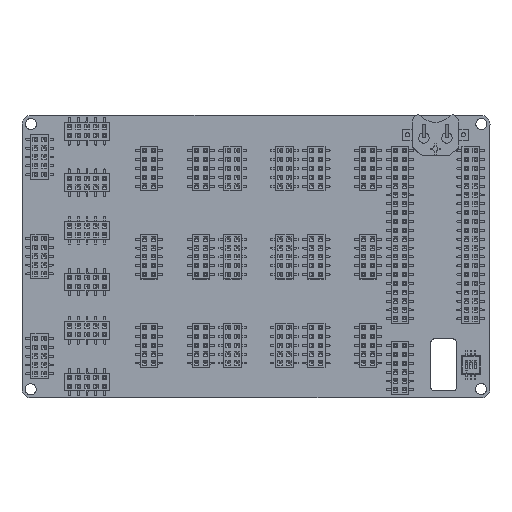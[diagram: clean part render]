
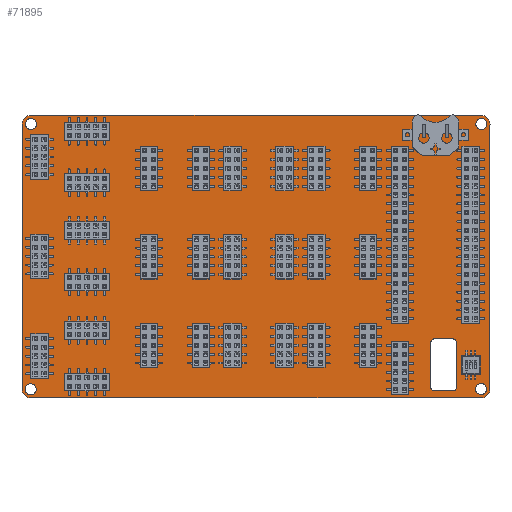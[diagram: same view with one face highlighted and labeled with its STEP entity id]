
A CAD part, top view. The second image highlights one B-rep face of the part: STEP entity #71895.
In plain terms, the highlighted planar face has unit normal (0, 0, 1).
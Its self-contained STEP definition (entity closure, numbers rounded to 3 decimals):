
#71610 = VERTEX_POINT('',#71611);
#71611 = CARTESIAN_POINT('',(222.166,-49.745,1.6));
#71617 = EDGE_CURVE('',#71610,#71618,#71620,.T.);
#71618 = VERTEX_POINT('',#71619);
#71619 = CARTESIAN_POINT('',(224.666,-52.245,1.6));
#71620 = CIRCLE('',#71621,2.5);
#71621 = AXIS2_PLACEMENT_3D('',#71622,#71623,#71624);
#71622 = CARTESIAN_POINT('',(222.167,-52.245,1.6));
#71623 = DIRECTION('',(0.,0.,-1.));
#71624 = DIRECTION('',(0.,1.,0.));
#71652 = VERTEX_POINT('',#71653);
#71653 = CARTESIAN_POINT('',(92.797,-49.766,1.6));
#71659 = EDGE_CURVE('',#71652,#71610,#71660,.T.);
#71660 = LINE('',#71661,#71662);
#71661 = CARTESIAN_POINT('',(92.797,-49.766,1.6));
#71662 = VECTOR('',#71663,1.);
#71663 = DIRECTION('',(1.,0.,0.));
#71681 = EDGE_CURVE('',#71618,#71682,#71684,.T.);
#71682 = VERTEX_POINT('',#71683);
#71683 = CARTESIAN_POINT('',(224.63,-128.375,1.6));
#71684 = LINE('',#71685,#71686);
#71685 = CARTESIAN_POINT('',(224.666,-52.245,1.6));
#71686 = VECTOR('',#71687,1.);
#71687 = DIRECTION('',(0.,-1.,0.));
#71895 = ADVANCED_FACE('',(#71896,#71942,#71953,#71964,#72034,#72045,
    #72056,#72067),#72078,.T.);
#71896 = FACE_BOUND('',#71897,.T.);
#71897 = EDGE_LOOP('',(#71898,#71899,#71900,#71909,#71917,#71926,#71934,
    #71941));
#71898 = ORIENTED_EDGE('',*,*,#71617,.F.);
#71899 = ORIENTED_EDGE('',*,*,#71659,.F.);
#71900 = ORIENTED_EDGE('',*,*,#71901,.F.);
#71901 = EDGE_CURVE('',#71902,#71652,#71904,.T.);
#71902 = VERTEX_POINT('',#71903);
#71903 = CARTESIAN_POINT('',(90.297,-52.266,1.6));
#71904 = CIRCLE('',#71905,2.5);
#71905 = AXIS2_PLACEMENT_3D('',#71906,#71907,#71908);
#71906 = CARTESIAN_POINT('',(92.797,-52.265,1.6));
#71907 = DIRECTION('',(0.,0.,-1.));
#71908 = DIRECTION('',(-1.,0.,-0.));
#71909 = ORIENTED_EDGE('',*,*,#71910,.F.);
#71910 = EDGE_CURVE('',#71911,#71902,#71913,.T.);
#71911 = VERTEX_POINT('',#71912);
#71912 = CARTESIAN_POINT('',(90.261,-128.396,1.6));
#71913 = LINE('',#71914,#71915);
#71914 = CARTESIAN_POINT('',(90.261,-128.396,1.6));
#71915 = VECTOR('',#71916,1.);
#71916 = DIRECTION('',(0.,1.,0.));
#71917 = ORIENTED_EDGE('',*,*,#71918,.F.);
#71918 = EDGE_CURVE('',#71919,#71911,#71921,.T.);
#71919 = VERTEX_POINT('',#71920);
#71920 = CARTESIAN_POINT('',(92.761,-130.896,1.6));
#71921 = CIRCLE('',#71922,2.5);
#71922 = AXIS2_PLACEMENT_3D('',#71923,#71924,#71925);
#71923 = CARTESIAN_POINT('',(92.761,-128.396,1.6));
#71924 = DIRECTION('',(0.,0.,-1.));
#71925 = DIRECTION('',(0.,-1.,0.));
#71926 = ORIENTED_EDGE('',*,*,#71927,.F.);
#71927 = EDGE_CURVE('',#71928,#71919,#71930,.T.);
#71928 = VERTEX_POINT('',#71929);
#71929 = CARTESIAN_POINT('',(222.13,-130.875,1.6));
#71930 = LINE('',#71931,#71932);
#71931 = CARTESIAN_POINT('',(222.13,-130.875,1.6));
#71932 = VECTOR('',#71933,1.);
#71933 = DIRECTION('',(-1.,0.,0.));
#71934 = ORIENTED_EDGE('',*,*,#71935,.F.);
#71935 = EDGE_CURVE('',#71682,#71928,#71936,.T.);
#71936 = CIRCLE('',#71937,2.5);
#71937 = AXIS2_PLACEMENT_3D('',#71938,#71939,#71940);
#71938 = CARTESIAN_POINT('',(222.13,-128.375,1.6));
#71939 = DIRECTION('',(0.,0.,-1.));
#71940 = DIRECTION('',(1.,0.,0.));
#71941 = ORIENTED_EDGE('',*,*,#71681,.F.);
#71942 = FACE_BOUND('',#71943,.T.);
#71943 = EDGE_LOOP('',(#71944));
#71944 = ORIENTED_EDGE('',*,*,#71945,.T.);
#71945 = EDGE_CURVE('',#71946,#71946,#71948,.T.);
#71946 = VERTEX_POINT('',#71947);
#71947 = CARTESIAN_POINT('',(92.761,-129.996,1.6));
#71948 = CIRCLE('',#71949,1.6);
#71949 = AXIS2_PLACEMENT_3D('',#71950,#71951,#71952);
#71950 = CARTESIAN_POINT('',(92.761,-128.396,1.6));
#71951 = DIRECTION('',(-0.,0.,-1.));
#71952 = DIRECTION('',(-0.,-1.,0.));
#71953 = FACE_BOUND('',#71954,.T.);
#71954 = EDGE_LOOP('',(#71955));
#71955 = ORIENTED_EDGE('',*,*,#71956,.T.);
#71956 = EDGE_CURVE('',#71957,#71957,#71959,.T.);
#71957 = VERTEX_POINT('',#71958);
#71958 = CARTESIAN_POINT('',(222.13,-129.975,1.6));
#71959 = CIRCLE('',#71960,1.6);
#71960 = AXIS2_PLACEMENT_3D('',#71961,#71962,#71963);
#71961 = CARTESIAN_POINT('',(222.13,-128.375,1.6));
#71962 = DIRECTION('',(-0.,0.,-1.));
#71963 = DIRECTION('',(-0.,-1.,0.));
#71964 = FACE_BOUND('',#71965,.T.);
#71965 = EDGE_LOOP('',(#71966,#71977,#71985,#71994,#72002,#72011,#72019,
    #72028));
#71966 = ORIENTED_EDGE('',*,*,#71967,.F.);
#71967 = EDGE_CURVE('',#71968,#71970,#71972,.T.);
#71968 = VERTEX_POINT('',#71969);
#71969 = CARTESIAN_POINT('',(208.705,-113.95,1.6));
#71970 = VERTEX_POINT('',#71971);
#71971 = CARTESIAN_POINT('',(207.705,-114.95,1.6));
#71972 = CIRCLE('',#71973,1.);
#71973 = AXIS2_PLACEMENT_3D('',#71974,#71975,#71976);
#71974 = CARTESIAN_POINT('',(208.705,-114.95,1.6));
#71975 = DIRECTION('',(0.,0.,1.));
#71976 = DIRECTION('',(0.,1.,-0.));
#71977 = ORIENTED_EDGE('',*,*,#71978,.F.);
#71978 = EDGE_CURVE('',#71979,#71968,#71981,.T.);
#71979 = VERTEX_POINT('',#71980);
#71980 = CARTESIAN_POINT('',(214.01,-113.95,1.6));
#71981 = LINE('',#71982,#71983);
#71982 = CARTESIAN_POINT('',(214.01,-113.95,1.6));
#71983 = VECTOR('',#71984,1.);
#71984 = DIRECTION('',(-1.,0.,0.));
#71985 = ORIENTED_EDGE('',*,*,#71986,.F.);
#71986 = EDGE_CURVE('',#71987,#71979,#71989,.T.);
#71987 = VERTEX_POINT('',#71988);
#71988 = CARTESIAN_POINT('',(215.01,-114.95,1.6));
#71989 = CIRCLE('',#71990,1.);
#71990 = AXIS2_PLACEMENT_3D('',#71991,#71992,#71993);
#71991 = CARTESIAN_POINT('',(214.01,-114.95,1.6));
#71992 = DIRECTION('',(0.,0.,1.));
#71993 = DIRECTION('',(1.,0.,0.));
#71994 = ORIENTED_EDGE('',*,*,#71995,.F.);
#71995 = EDGE_CURVE('',#71996,#71987,#71998,.T.);
#71996 = VERTEX_POINT('',#71997);
#71997 = CARTESIAN_POINT('',(215.01,-127.875,1.6));
#71998 = LINE('',#71999,#72000);
#71999 = CARTESIAN_POINT('',(215.01,-127.875,1.6));
#72000 = VECTOR('',#72001,1.);
#72001 = DIRECTION('',(0.,1.,0.));
#72002 = ORIENTED_EDGE('',*,*,#72003,.F.);
#72003 = EDGE_CURVE('',#72004,#71996,#72006,.T.);
#72004 = VERTEX_POINT('',#72005);
#72005 = CARTESIAN_POINT('',(214.01,-128.875,1.6));
#72006 = CIRCLE('',#72007,1.);
#72007 = AXIS2_PLACEMENT_3D('',#72008,#72009,#72010);
#72008 = CARTESIAN_POINT('',(214.01,-127.875,1.6));
#72009 = DIRECTION('',(0.,0.,1.));
#72010 = DIRECTION('',(0.,-1.,0.));
#72011 = ORIENTED_EDGE('',*,*,#72012,.F.);
#72012 = EDGE_CURVE('',#72013,#72004,#72015,.T.);
#72013 = VERTEX_POINT('',#72014);
#72014 = CARTESIAN_POINT('',(208.705,-128.875,1.6));
#72015 = LINE('',#72016,#72017);
#72016 = CARTESIAN_POINT('',(208.705,-128.875,1.6));
#72017 = VECTOR('',#72018,1.);
#72018 = DIRECTION('',(1.,0.,0.));
#72019 = ORIENTED_EDGE('',*,*,#72020,.F.);
#72020 = EDGE_CURVE('',#72021,#72013,#72023,.T.);
#72021 = VERTEX_POINT('',#72022);
#72022 = CARTESIAN_POINT('',(207.705,-127.875,1.6));
#72023 = CIRCLE('',#72024,1.);
#72024 = AXIS2_PLACEMENT_3D('',#72025,#72026,#72027);
#72025 = CARTESIAN_POINT('',(208.705,-127.875,1.6));
#72026 = DIRECTION('',(0.,0.,1.));
#72027 = DIRECTION('',(-1.,0.,0.));
#72028 = ORIENTED_EDGE('',*,*,#72029,.F.);
#72029 = EDGE_CURVE('',#71970,#72021,#72030,.T.);
#72030 = LINE('',#72031,#72032);
#72031 = CARTESIAN_POINT('',(207.705,-114.95,1.6));
#72032 = VECTOR('',#72033,1.);
#72033 = DIRECTION('',(0.,-1.,0.));
#72034 = FACE_BOUND('',#72035,.T.);
#72035 = EDGE_LOOP('',(#72036));
#72036 = ORIENTED_EDGE('',*,*,#72037,.T.);
#72037 = EDGE_CURVE('',#72038,#72038,#72040,.T.);
#72038 = VERTEX_POINT('',#72039);
#72039 = CARTESIAN_POINT('',(216.91,-121.888,1.6));
#72040 = CIRCLE('',#72041,0.475);
#72041 = AXIS2_PLACEMENT_3D('',#72042,#72043,#72044);
#72042 = CARTESIAN_POINT('',(216.91,-121.413,1.6));
#72043 = DIRECTION('',(-0.,0.,-1.));
#72044 = DIRECTION('',(-0.,-1.,0.));
#72045 = FACE_BOUND('',#72046,.T.);
#72046 = EDGE_LOOP('',(#72047));
#72047 = ORIENTED_EDGE('',*,*,#72048,.T.);
#72048 = EDGE_CURVE('',#72049,#72049,#72051,.T.);
#72049 = VERTEX_POINT('',#72050);
#72050 = CARTESIAN_POINT('',(221.41,-121.888,1.6));
#72051 = CIRCLE('',#72052,0.475);
#72052 = AXIS2_PLACEMENT_3D('',#72053,#72054,#72055);
#72053 = CARTESIAN_POINT('',(221.41,-121.413,1.6));
#72054 = DIRECTION('',(-0.,0.,-1.));
#72055 = DIRECTION('',(-0.,-1.,0.));
#72056 = FACE_BOUND('',#72057,.T.);
#72057 = EDGE_LOOP('',(#72058));
#72058 = ORIENTED_EDGE('',*,*,#72059,.T.);
#72059 = EDGE_CURVE('',#72060,#72060,#72062,.T.);
#72060 = VERTEX_POINT('',#72061);
#72061 = CARTESIAN_POINT('',(92.797,-53.865,1.6));
#72062 = CIRCLE('',#72063,1.6);
#72063 = AXIS2_PLACEMENT_3D('',#72064,#72065,#72066);
#72064 = CARTESIAN_POINT('',(92.797,-52.265,1.6));
#72065 = DIRECTION('',(-0.,0.,-1.));
#72066 = DIRECTION('',(-0.,-1.,0.));
#72067 = FACE_BOUND('',#72068,.T.);
#72068 = EDGE_LOOP('',(#72069));
#72069 = ORIENTED_EDGE('',*,*,#72070,.T.);
#72070 = EDGE_CURVE('',#72071,#72071,#72073,.T.);
#72071 = VERTEX_POINT('',#72072);
#72072 = CARTESIAN_POINT('',(222.166,-53.845,1.6));
#72073 = CIRCLE('',#72074,1.6);
#72074 = AXIS2_PLACEMENT_3D('',#72075,#72076,#72077);
#72075 = CARTESIAN_POINT('',(222.166,-52.245,1.6));
#72076 = DIRECTION('',(-0.,0.,-1.));
#72077 = DIRECTION('',(-0.,-1.,0.));
#72078 = PLANE('',#72079);
#72079 = AXIS2_PLACEMENT_3D('',#72080,#72081,#72082);
#72080 = CARTESIAN_POINT('',(0.,0.,1.6));
#72081 = DIRECTION('',(0.,0.,1.));
#72082 = DIRECTION('',(1.,0.,-0.));
